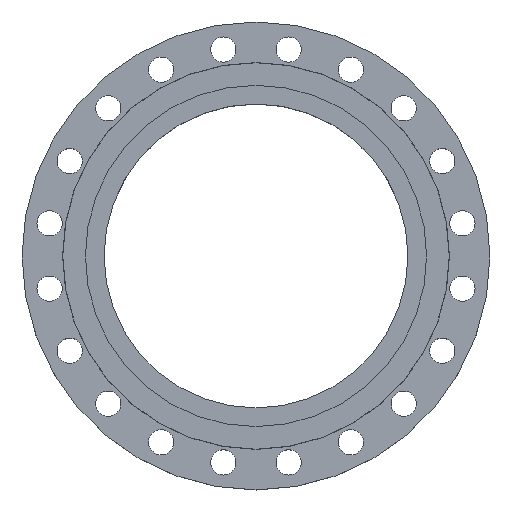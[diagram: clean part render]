
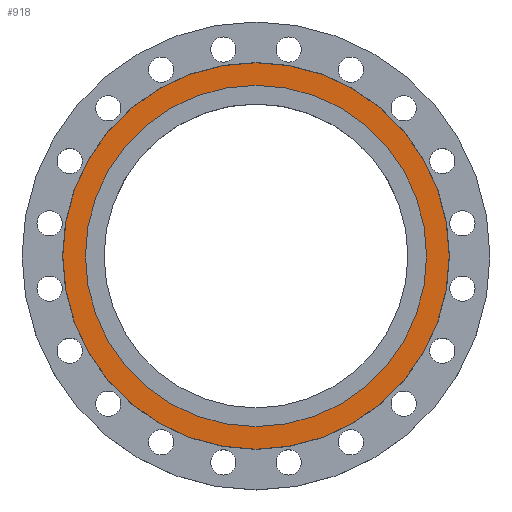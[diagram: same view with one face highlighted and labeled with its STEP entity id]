
A CAD part, top view. The second image highlights one B-rep face of the part: STEP entity #918.
In plain terms, the highlighted planar face has unit normal (0, 0, 1).
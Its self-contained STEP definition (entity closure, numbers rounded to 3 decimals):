
#124 = DIRECTION ( 'NONE',  ( -1., 0., 0. ) ) ;
#126 = DIRECTION ( 'NONE',  ( 0., 0., -1. ) ) ;
#127 = CARTESIAN_POINT ( 'NONE',  ( 0., 0., 0. ) ) ;
#194 = DIRECTION ( 'NONE',  ( -1., 0., 0. ) ) ;
#195 = DIRECTION ( 'NONE',  ( 0., 0., -1. ) ) ;
#198 = CARTESIAN_POINT ( 'NONE',  ( 0., 0., 0. ) ) ;
#509 = CARTESIAN_POINT ( 'NONE',  ( -324.5, 0., 0. ) ) ;
#681 = CIRCLE ( 'NONE', #708, 367.5 ) ;
#692 = DIRECTION ( 'NONE',  ( -1., 0., 0. ) ) ;
#693 = DIRECTION ( 'NONE',  ( 0., 0., -1. ) ) ;
#694 = CARTESIAN_POINT ( 'NONE',  ( 0., 0., 0. ) ) ;
#708 = AXIS2_PLACEMENT_3D ( 'NONE', #198, #195, #194 ) ;
#822 = DIRECTION ( 'NONE',  ( -1., 0., 0. ) ) ;
#823 = DIRECTION ( 'NONE',  ( 0., 0., -1. ) ) ;
#824 = CARTESIAN_POINT ( 'NONE',  ( 0., 0., 0. ) ) ;
#825 = DIRECTION ( 'NONE',  ( 1., 0., 0. ) ) ;
#827 = DIRECTION ( 'NONE',  ( 0., 0., 1. ) ) ;
#828 = CARTESIAN_POINT ( 'NONE',  ( 0., 0., 0. ) ) ;
#830 = PLANE ( 'NONE',  #1745 ) ;
#831 = FACE_BOUND ( 'NONE', #1953, .T. ) ;
#834 = FACE_OUTER_BOUND ( 'NONE', #1927, .T. ) ;
#844 = CARTESIAN_POINT ( 'NONE',  ( 324.5, 0., 0. ) ) ;
#918 = ADVANCED_FACE ( 'NONE', ( #834, #831 ), #830, .T. ) ;
#923 = EDGE_CURVE ( 'NONE', #1911, #1873, #1781, .T. ) ;
#1107 = CIRCLE ( 'NONE', #1109, 367.5 ) ;
#1109 = AXIS2_PLACEMENT_3D ( 'NONE', #694, #693, #692 ) ;
#1162 = EDGE_CURVE ( 'NONE', #2051, #1945, #1107, .T. ) ;
#1358 = ORIENTED_EDGE ( 'NONE', *, *, #1786, .T. ) ;
#1359 = ORIENTED_EDGE ( 'NONE', *, *, #923, .T. ) ;
#1362 = ORIENTED_EDGE ( 'NONE', *, *, #1408, .F. ) ;
#1363 = ORIENTED_EDGE ( 'NONE', *, *, #1162, .F. ) ;
#1408 = EDGE_CURVE ( 'NONE', #1945, #2051, #681, .T. ) ;
#1489 = AXIS2_PLACEMENT_3D ( 'NONE', #127, #126, #124 ) ;
#1499 = CIRCLE ( 'NONE', #1489, 324.5 ) ;
#1745 = AXIS2_PLACEMENT_3D ( 'NONE', #828, #827, #825 ) ;
#1753 = AXIS2_PLACEMENT_3D ( 'NONE', #824, #823, #822 ) ;
#1781 = CIRCLE ( 'NONE', #1753, 324.5 ) ;
#1786 = EDGE_CURVE ( 'NONE', #1873, #1911, #1499, .T. ) ;
#1811 = CARTESIAN_POINT ( 'NONE',  ( -367.5, 0., 0. ) ) ;
#1873 = VERTEX_POINT ( 'NONE', #844 ) ;
#1911 = VERTEX_POINT ( 'NONE', #509 ) ;
#1927 = EDGE_LOOP ( 'NONE', ( #1363, #1362 ) ) ;
#1945 = VERTEX_POINT ( 'NONE', #2086 ) ;
#1953 = EDGE_LOOP ( 'NONE', ( #1359, #1358 ) ) ;
#2051 = VERTEX_POINT ( 'NONE', #1811 ) ;
#2086 = CARTESIAN_POINT ( 'NONE',  ( 367.5, 0., 0. ) ) ;
